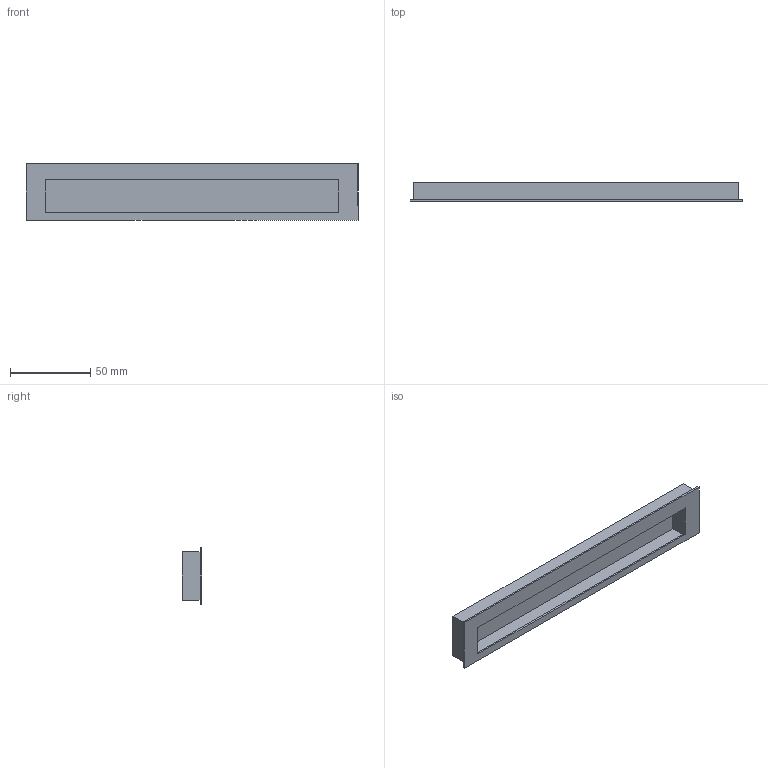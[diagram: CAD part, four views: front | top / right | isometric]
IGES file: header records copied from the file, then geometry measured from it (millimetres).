
Start section: Data from Parasolid IGES Translator 15.0.47, Copyright(c) 2006 Siemens P LM Software. All Rights Reserved.
Global section: file name:  9071075.igs; native system:  By UGS Corp.; preprocessor: XPlus GENERIC/IGES 3.0; author: Noname; organization: Noname; date: 20140122.181001; units: millimetre
Bounding box: 207 x 12 x 35 mm (x, y, z)
Surface area: 27855.1 mm2 (no closed solid volume)
Topology: 0 solids, 0 shells, 24 faces, 108 edges, 106 vertices
Faces by surface type: extrusion 22, revolution 2
